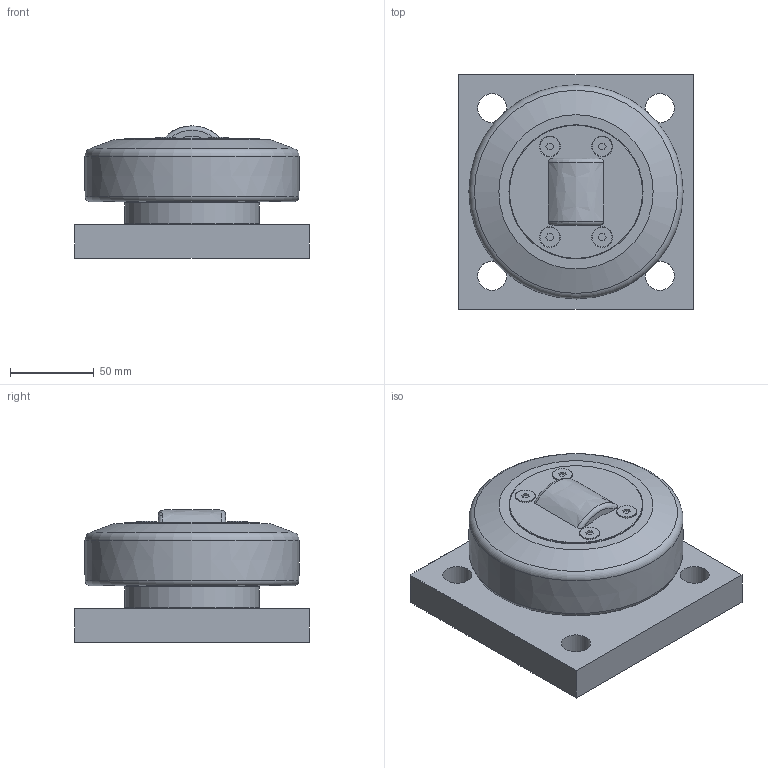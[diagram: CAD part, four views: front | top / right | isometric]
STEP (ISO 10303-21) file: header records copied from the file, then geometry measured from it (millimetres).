
FILE_DESCRIPTION(/* description */ ('-','CAx-IF Rec.Pracs.---Representation and Presentation of Product Manufacturing Information (PMI)---4.0---2014-10-13'),/* implementation_level */ '2;1');
FILE_NAME(/* name */ 'c:\temp\a7d75b3d-5418-4dab-9794-74a2f0ec6a9b\580c1325-af6f-4568-960c-712fa684ba8d.stp',/* time_stamp */ '2020-04-01T16:21:14+02:00',/* author */ ('-'),/* organization */ ('NTI CADcenter A/S'),/* preprocessor_version */ 'ST-DEVELOPER v18',/* originating_system */ 'Autodesk Inventor 2020',/* authorisation */ '-');
FILE_SCHEMA (('AP242_MANAGED_MODEL_BASED_3D_ENGINEERING_MIM_LF { 1 0 10303 442 1 1 4 }'));
Length unit declared in the file: millimetre
Products named in the file (1): PT 120.0365 BQ1000_Kontur
Bounding box: 140 x 140 x 79 mm (x, y, z)
Volume: 904657 mm3; surface area: 84831.8 mm2
Topology: 1 solids, 1 shells, 73 faces, 190 edges, 132 vertices
Faces by surface type: plane 46, cylinder 13, cone 8, torus 4, bspline 2
Full cylindrical faces by diameter (mm): 11.7 x4, 17.294 x4, 80 x3
Entity records: 2406 total; most frequent: CARTESIAN_POINT 482, DIRECTION 399, ORIENTED_EDGE 380, EDGE_CURVE 190, AXIS2_PLACEMENT_3D 143, VERTEX_POINT 132, LINE 113, VECTOR 113
